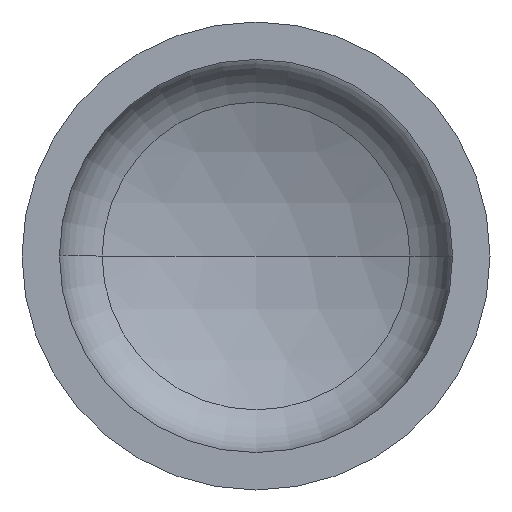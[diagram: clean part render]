
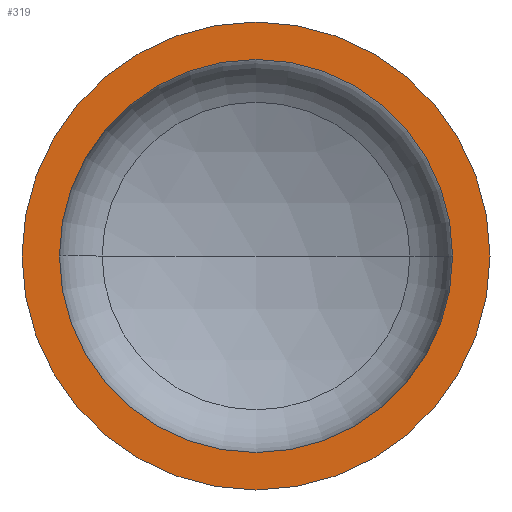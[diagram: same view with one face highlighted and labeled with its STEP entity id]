
A CAD part, front view. The second image highlights one B-rep face of the part: STEP entity #319.
In plain terms, the highlighted planar face has unit normal (0, -1, 0).
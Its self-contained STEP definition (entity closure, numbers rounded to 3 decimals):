
#16 = ORIENTED_EDGE ( 'NONE', *, *, #326, .T. ) ;
#28 = AXIS2_PLACEMENT_3D ( 'NONE', #227, #33, #138 ) ;
#29 = AXIS2_PLACEMENT_3D ( 'NONE', #117, #71, #73 ) ;
#33 = DIRECTION ( 'NONE',  ( 0., 1., 0. ) ) ;
#36 = CARTESIAN_POINT ( 'NONE',  ( 420., 0., 0. ) ) ;
#41 = CARTESIAN_POINT ( 'NONE',  ( 0., 0., 0. ) ) ;
#59 = AXIS2_PLACEMENT_3D ( 'NONE', #283, #281, #280 ) ;
#61 = AXIS2_PLACEMENT_3D ( 'NONE', #165, #333, #331 ) ;
#71 = DIRECTION ( 'NONE',  ( 0., -1., 0. ) ) ;
#72 = AXIS2_PLACEMENT_3D ( 'NONE', #41, #155, #347 ) ;
#73 = DIRECTION ( 'NONE',  ( 1., 0., 0. ) ) ;
#75 = FACE_OUTER_BOUND ( 'NONE', #158, .T. ) ;
#77 = ORIENTED_EDGE ( 'NONE', *, *, #80, .F. ) ;
#78 = EDGE_CURVE ( 'NONE', #296, #406, #131, .T. ) ;
#80 = EDGE_CURVE ( 'NONE', #327, #370, #340, .T. ) ;
#88 = CARTESIAN_POINT ( 'NONE',  ( -420., 0., 0. ) ) ;
#117 = CARTESIAN_POINT ( 'NONE',  ( 0., 0., 0. ) ) ;
#126 = PLANE ( 'NONE',  #28 ) ;
#131 = CIRCLE ( 'NONE', #61, 500. ) ;
#138 = DIRECTION ( 'NONE',  ( -1., 0., 0. ) ) ;
#155 = DIRECTION ( 'NONE',  ( 0., -1., 0. ) ) ;
#158 = EDGE_LOOP ( 'NONE', ( #16, #171 ) ) ;
#163 = FACE_BOUND ( 'NONE', #345, .T. ) ;
#165 = CARTESIAN_POINT ( 'NONE',  ( 0., 0., 0. ) ) ;
#171 = ORIENTED_EDGE ( 'NONE', *, *, #78, .T. ) ;
#204 = CARTESIAN_POINT ( 'NONE',  ( -500., 0., 0. ) ) ;
#225 = CIRCLE ( 'NONE', #29, 500. ) ;
#227 = CARTESIAN_POINT ( 'NONE',  ( -500., 0., 0. ) ) ;
#236 = CARTESIAN_POINT ( 'NONE',  ( 500., 0., 0. ) ) ;
#264 = CIRCLE ( 'NONE', #72, 420. ) ;
#280 = DIRECTION ( 'NONE',  ( 1., 0., 0. ) ) ;
#281 = DIRECTION ( 'NONE',  ( 0., -1., 0. ) ) ;
#283 = CARTESIAN_POINT ( 'NONE',  ( 0., 0., 0. ) ) ;
#296 = VERTEX_POINT ( 'NONE', #204 ) ;
#319 = ADVANCED_FACE ( 'NONE', ( #163, #75 ), #126, .F. ) ;
#326 = EDGE_CURVE ( 'NONE', #406, #296, #225, .T. ) ;
#327 = VERTEX_POINT ( 'NONE', #36 ) ;
#331 = DIRECTION ( 'NONE',  ( 1., 0., 0. ) ) ;
#333 = DIRECTION ( 'NONE',  ( 0., -1., 0. ) ) ;
#340 = CIRCLE ( 'NONE', #59, 420. ) ;
#345 = EDGE_LOOP ( 'NONE', ( #77, #390 ) ) ;
#347 = DIRECTION ( 'NONE',  ( 1., 0., 0. ) ) ;
#370 = VERTEX_POINT ( 'NONE', #88 ) ;
#390 = ORIENTED_EDGE ( 'NONE', *, *, #398, .F. ) ;
#398 = EDGE_CURVE ( 'NONE', #370, #327, #264, .T. ) ;
#406 = VERTEX_POINT ( 'NONE', #236 ) ;
